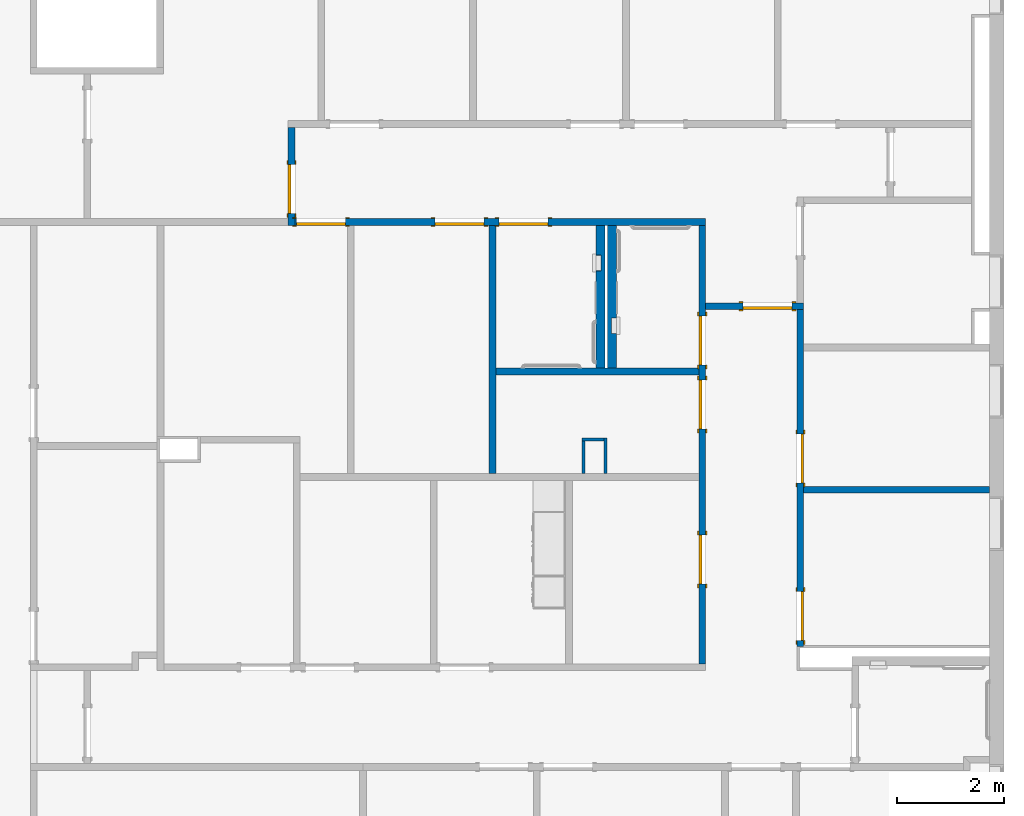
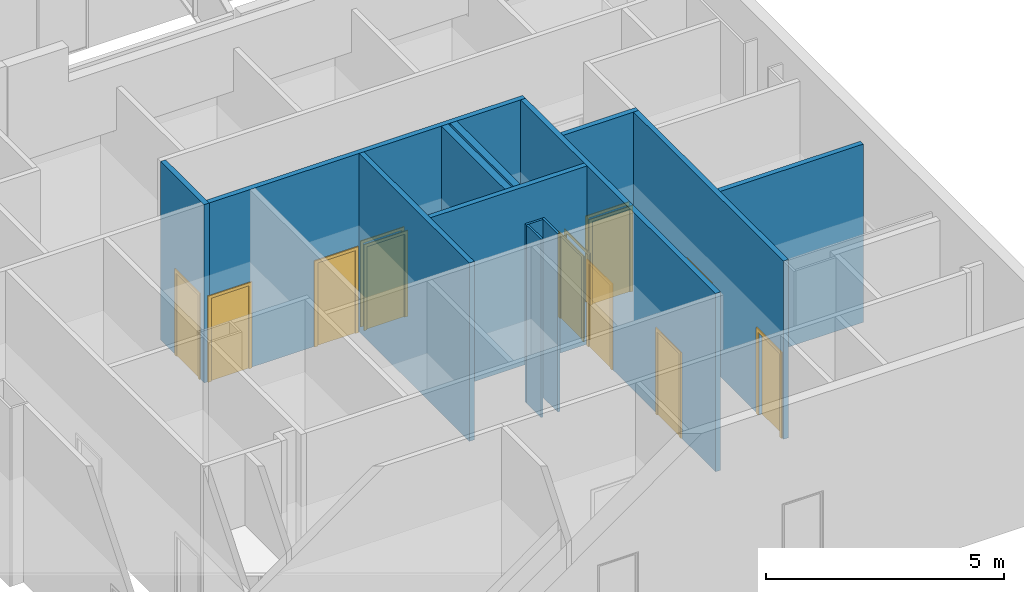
# One storey, part 16 of 47: 13 walls, 10 doors, 12 openings.
"""IFC2X3 building model written with IfcOpenShell, lengths in metres."""

from ifc_helpers import new_model, entity, si_unit, converted_unit, frame, frame_2d, origin, origin_2d_with_axis, place, context, project, spatial, polyline, rectangle, outline, extrude, source, transform, mapped, material, layer, layer_set, layer_usage, type_object, type_shapes, element, fill, save


model = new_model("IFC2X3")

# Units and contexts
model_context = context("Model", 3, precision=1e-09, world=origin())
plan_context = context("Plan", 3, precision=1e-09, world=origin())
ifc_project = project(units=[si_unit("LENGTHUNIT", "METRE"), si_unit("AREAUNIT", "SQUARE_METRE"), si_unit("VOLUMEUNIT", "CUBIC_METRE"), converted_unit("PLANEANGLEUNIT", "DEGREE", entity("IfcRatioMeasure", 0.01745329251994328), si_unit("PLANEANGLEUNIT", "RADIAN"), dimensions=[0, 0, 0, 0, 0, 0, 0]), si_unit("TIMEUNIT", "SECOND")], contexts=[model_context, plan_context])

# Site, building, storey
site_placement = place(None, origin())
site = spatial("IfcSite", under=ifc_project, at=site_placement, Name="Default", CompositionType="ELEMENT")
building_placement = place(site_placement, origin())
building = spatial("IfcBuilding", under=site, at=building_placement, CompositionType="ELEMENT")
storey_placement = place(building_placement, frame((0.0, 0.0, 4.570000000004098)))
storey = spatial("IfcBuildingStorey", under=building, at=storey_placement, Name="Second Floor", CompositionType="ELEMENT", Elevation=4.570000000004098)

# Wall, opening, door
ifc_material_1 = material(Name="Plasterboard")
ifc_layer_1 = layer(ifc_material_1, 0.016)
ifc_material_2 = material(Name="Metal - Stud Layer")
ifc_layer_2 = layer(ifc_material_2, 0.092)
ifc_layer_3 = layer(ifc_material_1, 0.016)
ifc_layer_set_1 = layer_set([ifc_layer_1, ifc_layer_2, ifc_layer_3], Name="Basic Wall:Interior - Partition (92mm Stud)")
ifc_layer_usage_1 = layer_usage(ifc_layer_set_1, "AXIS2", "NEGATIVE", 0.062)
wall_1_placement = place(storey_placement, frame((-12.94800000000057, 22.85043871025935, 0.0), z_axis=(0.0, 0.0, 1.0), x_axis=(0.0, 1.0, 0.0)))
wall_1 = element("IfcWallStandardCase", 1, at=wall_1_placement, inside=storey, material=ifc_layer_usage_1, Name="Basic Wall:Interior - Partition (92mm Stud)", ObjectType="Basic Wall:Interior - Partition (92mm Stud)", context=model_context, shape_type="SweptSolid", body=[
    extrude(rectangle(XDim=1.834000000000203, YDim=0.1240000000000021, at=frame_2d((0.9170000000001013, 0.0), x_axis=(-1.0, 0.0))), origin(), (0.0, 0.0, 1.0), 4.577999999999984),
])
opening_1_placement = place(wall_1_placement, frame((0.2240000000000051, -0.06199999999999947, 0.0)))
opening_1 = element("IfcOpeningElement", 2, at=opening_1_placement, cuts=wall_1, Name="M_Single-Flush:0915 x 2134mm:0915 x 2134mm:1", ObjectType="Opening", context=model_context, shape_type="SweptSolid", body=[
    extrude(rectangle(XDim=0.9149999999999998, YDim=2.134, at=frame_2d((1.067, 0.4575000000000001), x_axis=(0.0, -1.0))), frame((0.0, 0.0, 0.0), z_axis=(0.0, 1.0, 0.0), x_axis=(0.0, 0.0, 1.0)), (0.0, 0.0, 1.0), 0.124),
])
door_style_1 = type_object("IfcDoorStyle", Name="0915 x 2134mm", ConstructionType="NOTDEFINED", OperationType="SINGLE_SWING_LEFT", ParameterTakesPrecedence=False, Sizeable=False)
shared_shape_1 = source(origin(), model_context, "Body", "SweptSolid", [
    extrude(outline(polyline([(-0.5335, -1.123999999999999), (0.5334999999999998, -1.123999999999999), (0.5334999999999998, 1.086), (0.4574999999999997, 1.086), (0.4574999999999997, -1.048000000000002), (-0.4574999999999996, -1.048000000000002), (-0.4574999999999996, 1.086), (-0.5335, 1.086), (-0.5335, -1.123999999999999)])), frame((0.4575000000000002, 0.1489999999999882, 1.086), z_axis=(0.0, -1.0, 0.0), x_axis=(-1.0, 0.0, 0.0)), (0.0, 0.0, 1.0), 0.02499999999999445),
    extrude(outline(polyline([(-1.123999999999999, -0.5334999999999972), (1.085999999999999, -0.5334999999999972), (1.085999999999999, -0.4575000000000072), (-1.048, -0.4575000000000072), (-1.048, 0.4575000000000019), (1.085999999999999, 0.4575000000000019), (1.085999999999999, 0.5335000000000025), (-1.123999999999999, 0.5335000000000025), (-1.123999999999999, -0.5334999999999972)])), frame((0.4574999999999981, 0.0, 1.085999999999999), z_axis=(0.0, -1.0, 0.0), x_axis=(0.0, 0.0, -1.0)), (0.0, 0.0, 1.0), 0.02500000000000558),
    extrude(rectangle(XDim=0.9149999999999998, YDim=0.051, at=origin_2d_with_axis()), frame((0.4575000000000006, 0.09849999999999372, 0.0)), (0.0, 0.0, 1.0), 2.133999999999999),
])
type_shapes(door_style_1, [shared_shape_1])
door_1_placement = place(opening_1_placement, origin())
door_1 = element("IfcDoor", 3, at=door_1_placement, inside=storey, type_object=door_style_1, Name="M_Single-Flush:0915 x 2134mm:0915 x 2134mm", ObjectType="0915 x 2134mm", OverallHeight=2.134, OverallWidth=0.9149999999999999, context=model_context, shape_type="MappedRepresentation", body=[
    mapped(shared_shape_1, transform((0.0, 0.0, 0.0), scale=1.0)),
])
fill(opening_1, door_1)

# Wall, openings, doors
ifc_layer_usage_2 = layer_usage(ifc_layer_set_1, "AXIS2", "NEGATIVE", 0.062)
wall_2_placement = place(storey_placement, frame((-12.88600000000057, 22.91243871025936, 0.0)))
wall_2 = element("IfcWallStandardCase", 4, at=wall_2_placement, inside=storey, material=ifc_layer_usage_2, Name="Basic Wall:Interior - Partition (92mm Stud)", ObjectType="Basic Wall:Interior - Partition (92mm Stud)", context=model_context, shape_type="SweptSolid", body=[
    extrude(rectangle(XDim=7.68600000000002, YDim=0.1239999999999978, at=frame_2d((3.84300000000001, 0.0), x_axis=(-1.0, 0.0))), origin(), (0.0, 0.0, 1.0), 4.577999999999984),
])
opening_2_placement = place(wall_2_placement, frame((0.9505000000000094, 0.0619999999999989, 0.0)))
opening_2 = element("IfcOpeningElement", 5, at=opening_2_placement, cuts=wall_2, Name="M_Single-Flush:0915 x 2134mm:0915 x 2134mm:1", ObjectType="Opening", context=model_context, shape_type="SweptSolid", body=[
    extrude(rectangle(XDim=0.9149999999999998, YDim=2.134, at=frame_2d((1.067, 0.4575000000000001), x_axis=(0.0, -1.0))), frame((0.0, 0.0, 0.0), z_axis=(0.0, -1.0, 0.0), x_axis=(0.0, 0.0, 1.0)), (0.0, 0.0, 1.0), 0.124),
])
opening_3_placement = place(wall_2_placement, frame((3.536000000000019, 0.06199999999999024, 0.0)))
opening_3 = element("IfcOpeningElement", 6, at=opening_3_placement, cuts=wall_2, Name="M_Single-Flush:0915 x 2134mm:0915 x 2134mm:1", ObjectType="Opening", context=model_context, shape_type="SweptSolid", body=[
    extrude(rectangle(XDim=0.9149999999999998, YDim=2.134, at=frame_2d((1.067, 0.4575000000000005), x_axis=(0.0, -1.0))), frame((0.0, 0.0, 0.0), z_axis=(0.0, -1.0, 0.0), x_axis=(0.0, 0.0, 1.0)), (0.0, 0.0, 1.0), 0.124),
])
opening_4_placement = place(wall_2_placement, frame((4.735000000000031, 0.06199999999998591, 0.0)))
opening_4 = element("IfcOpeningElement", 7, at=opening_4_placement, cuts=wall_2, Name="M_Single-Flush:0915 x 2134mm:0915 x 2134mm:1", ObjectType="Opening", context=model_context, shape_type="SweptSolid", body=[
    extrude(rectangle(XDim=0.9149999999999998, YDim=2.134, at=frame_2d((1.067, 0.4575), x_axis=(0.0, 1.0))), frame((0.0, 0.0, 0.0), z_axis=(0.0, -1.0, 0.0), x_axis=(0.0, 0.0, 1.0)), (0.0, 0.0, 1.0), 0.124),
])
door_style_2 = type_object("IfcDoorStyle", Name="0915 x 2134mm", ConstructionType="NOTDEFINED", OperationType="SINGLE_SWING_RIGHT", ParameterTakesPrecedence=False, Sizeable=False)
shared_shape_2 = source(origin(), model_context, "Body", "SweptSolid", [
    extrude(outline(polyline([(-0.5335, -1.123999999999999), (0.5334999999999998, -1.123999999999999), (0.5334999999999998, 1.086), (0.4574999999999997, 1.086), (0.4574999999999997, -1.048000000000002), (-0.4574999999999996, -1.048000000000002), (-0.4574999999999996, 1.086), (-0.5335, 1.086), (-0.5335, -1.123999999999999)])), frame((0.4575000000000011, 0.1239999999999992, 1.086), z_axis=(0.0, 1.0, 0.0), x_axis=(1.0, 0.0, 0.0)), (0.0, 0.0, 1.0), 0.02499999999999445),
    extrude(outline(polyline([(-1.123999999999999, -0.5334999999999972), (1.085999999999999, -0.5334999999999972), (1.085999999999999, -0.4575000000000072), (-1.048, -0.4575000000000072), (-1.048, 0.4575000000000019), (1.085999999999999, 0.4575000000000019), (1.085999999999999, 0.5335000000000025), (-1.123999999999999, 0.5335000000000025), (-1.123999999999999, -0.5334999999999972)])), frame((0.4575000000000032, -0.02500000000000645, 1.085999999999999), z_axis=(0.0, 1.0, 0.0), x_axis=(0.0, 0.0, -1.0)), (0.0, 0.0, 1.0), 0.02500000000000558),
    extrude(rectangle(XDim=0.051, YDim=0.9149999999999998, at=origin_2d_with_axis()), frame((0.4575000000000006, 0.09849999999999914, 0.0), z_axis=(0.0, 0.0, 1.0), x_axis=(0.0, 1.0, 0.0)), (0.0, 0.0, 1.0), 2.133999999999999),
])
type_shapes(door_style_2, [shared_shape_2])
door_2_placement = place(opening_4_placement, frame((0.0, 0.0, 0.0), z_axis=(0.0, 0.0, 1.0), x_axis=(-1.0, 0.0, 0.0)))
door_2 = element("IfcDoor", 8, at=door_2_placement, inside=storey, type_object=door_style_2, Name="M_Single-Flush:0915 x 2134mm:0915 x 2134mm", ObjectType="0915 x 2134mm", OverallHeight=2.134, OverallWidth=0.9149999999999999, context=model_context, shape_type="MappedRepresentation", body=[
    mapped(shared_shape_2, transform((0.0, 0.0, 0.0), scale=1.0)),
])
fill(opening_4, door_2)
door_3_placement = place(opening_2_placement, frame((0.0, 0.0, 0.0), z_axis=(0.0, 0.0, 1.0), x_axis=(-1.0, 0.0, 0.0)))
door_3 = element("IfcDoor", 9, at=door_3_placement, inside=storey, type_object=door_style_1, Name="M_Single-Flush:0915 x 2134mm:0915 x 2134mm", ObjectType="0915 x 2134mm", OverallHeight=2.134, OverallWidth=0.9149999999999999, context=model_context, shape_type="MappedRepresentation", body=[
    mapped(shared_shape_1, transform((0.0, 0.0, 0.0), scale=1.0)),
])
fill(opening_2, door_3)
door_4_placement = place(opening_3_placement, frame((0.0, 0.0, 0.0), z_axis=(0.0, 0.0, 1.0), x_axis=(-1.0, 0.0, 0.0)))
door_4 = element("IfcDoor", 10, at=door_4_placement, inside=storey, type_object=door_style_1, Name="M_Single-Flush:0915 x 2134mm:0915 x 2134mm", ObjectType="0915 x 2134mm", OverallHeight=2.134, OverallWidth=0.9149999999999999, context=model_context, shape_type="MappedRepresentation", body=[
    mapped(shared_shape_1, transform((0.0, 0.0, 0.0), scale=1.0)),
])
fill(opening_3, door_4)

ifc_layer_usage_3 = layer_usage(ifc_layer_set_1, "AXIS2", "NEGATIVE", 0.062)
wall_3_placement = place(storey_placement, frame((-5.26200000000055, 22.85043871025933, 0.0), z_axis=(0.0, 0.0, 1.0), x_axis=(0.0, -1.0, 0.0)))
wall_3 = element("IfcWallStandardCase", 11, at=wall_3_placement, inside=storey, material=ifc_layer_usage_3, Name="Basic Wall:Interior - Partition (92mm Stud)", ObjectType="Basic Wall:Interior - Partition (92mm Stud)", context=model_context, shape_type="SweptSolid", body=[
    extrude(rectangle(XDim=8.202000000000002, YDim=0.124, at=frame_2d((4.101000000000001, 0.0), x_axis=(-1.0, 0.0))), origin(), (0.0, 0.0, 1.0), 4.577999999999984),
])
opening_5_placement = place(wall_3_placement, frame((2.612000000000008, 0.06199999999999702, 0.0)))
opening_5 = element("IfcOpeningElement", 12, at=opening_5_placement, cuts=wall_3, Name="M_Single-Flush:0915 x 2134mm:0915 x 2134mm:1", ObjectType="Opening", context=model_context, shape_type="SweptSolid", body=[
    extrude(rectangle(XDim=0.9149999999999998, YDim=2.134, at=frame_2d((1.067, 0.4574999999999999), x_axis=(0.0, -1.0))), frame((0.0, 0.0, 0.0), z_axis=(0.0, -1.0, 0.0), x_axis=(0.0, 0.0, 1.0)), (0.0, 0.0, 1.0), 0.124),
])
opening_6_placement = place(wall_3_placement, frame((3.811000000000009, 0.06199999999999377, 0.0)))
opening_6 = element("IfcOpeningElement", 13, at=opening_6_placement, cuts=wall_3, Name="M_Single-Flush:0915 x 2134mm:0915 x 2134mm:1", ObjectType="Opening", context=model_context, shape_type="SweptSolid", body=[
    extrude(rectangle(XDim=0.9149999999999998, YDim=2.134, at=frame_2d((1.067, 0.4575), x_axis=(0.0, 1.0))), frame((0.0, 0.0, 0.0), z_axis=(0.0, -1.0, 0.0), x_axis=(0.0, 0.0, 1.0)), (0.0, 0.0, 1.0), 0.124),
])
opening_7_placement = place(wall_3_placement, frame((6.705000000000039, 0.06199999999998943, 0.0)))
opening_7 = element("IfcOpeningElement", 14, at=opening_7_placement, cuts=wall_3, Name="M_Single-Flush:0915 x 2134mm:0915 x 2134mm:1", ObjectType="Opening", context=model_context, shape_type="SweptSolid", body=[
    extrude(rectangle(XDim=0.9149999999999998, YDim=2.134, at=frame_2d((1.067, 0.4575), x_axis=(0.0, 1.0))), frame((0.0, 0.0, 0.0), z_axis=(0.0, -1.0, 0.0), x_axis=(0.0, 0.0, 1.0)), (0.0, 0.0, 1.0), 0.124),
])
door_5_placement = place(opening_6_placement, frame((0.0, 0.0, 0.0), z_axis=(0.0, 0.0, 1.0), x_axis=(-1.0, 0.0, 0.0)))
door_5 = element("IfcDoor", 15, at=door_5_placement, inside=storey, type_object=door_style_2, Name="M_Single-Flush:0915 x 2134mm:0915 x 2134mm", ObjectType="0915 x 2134mm", OverallHeight=2.134, OverallWidth=0.9149999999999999, context=model_context, shape_type="MappedRepresentation", body=[
    mapped(shared_shape_2, transform((0.0, 0.0, 0.0), scale=1.0)),
])
fill(opening_6, door_5)
door_6_placement = place(opening_7_placement, frame((0.0, 0.0, 0.0), z_axis=(0.0, 0.0, 1.0), x_axis=(-1.0, 0.0, 0.0)))
door_6 = element("IfcDoor", 16, at=door_6_placement, inside=storey, type_object=door_style_2, Name="M_Single-Flush:0915 x 2134mm:0915 x 2134mm", ObjectType="0915 x 2134mm", OverallHeight=2.134, OverallWidth=0.9149999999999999, context=model_context, shape_type="MappedRepresentation", body=[
    mapped(shared_shape_2, transform((0.0, 0.0, 0.0), scale=1.0)),
])
fill(opening_7, door_6)
door_7_placement = place(opening_5_placement, frame((0.0, 0.0, 0.0), z_axis=(0.0, 0.0, 1.0), x_axis=(-1.0, 0.0, 0.0)))
door_7 = element("IfcDoor", 17, at=door_7_placement, inside=storey, type_object=door_style_1, Name="M_Single-Flush:0915 x 2134mm:0915 x 2134mm", ObjectType="0915 x 2134mm", OverallHeight=2.134, OverallWidth=0.9149999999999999, context=model_context, shape_type="MappedRepresentation", body=[
    mapped(shared_shape_1, transform((0.0, 0.0, 0.0), scale=1.0)),
])
fill(opening_5, door_7)

# Wall, opening, door
ifc_layer_usage_4 = layer_usage(ifc_layer_set_1, "AXIS2", "NEGATIVE", 0.062)
wall_4_placement = place(storey_placement, frame((-5.200000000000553, 21.33903871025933, 0.0)))
wall_4 = element("IfcWallStandardCase", 18, at=wall_4_placement, inside=storey, material=ifc_layer_usage_4, Name="Basic Wall:Interior - Partition (92mm Stud)", ObjectType="Basic Wall:Interior - Partition (92mm Stud)", context=model_context, shape_type="SweptSolid", body=[
    extrude(rectangle(XDim=1.833999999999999, YDim=0.1239999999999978, at=frame_2d((0.9169999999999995, 0.0), x_axis=(-1.0, 0.0))), origin(), (0.0, 0.0, 1.0), 4.577999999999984),
])
opening_8_placement = place(wall_4_placement, frame((1.609999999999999, 0.06199999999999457, 0.0)))
opening_8 = element("IfcOpeningElement", 19, at=opening_8_placement, cuts=wall_4, Name="M_Single-Flush:0915 x 2134mm:0915 x 2134mm:1", ObjectType="Opening", context=model_context, shape_type="SweptSolid", body=[
    extrude(rectangle(XDim=0.9149999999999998, YDim=2.134, at=frame_2d((1.067, 0.4575000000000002), x_axis=(0.0, -1.0))), frame((0.0, 0.0, 0.0), z_axis=(0.0, -1.0, 0.0), x_axis=(0.0, 0.0, 1.0)), (0.0, 0.0, 1.0), 0.124),
])
door_8_placement = place(opening_8_placement, frame((0.0, 0.0, 0.0), z_axis=(0.0, 0.0, 1.0), x_axis=(-1.0, 0.0, 0.0)))
door_8 = element("IfcDoor", 20, at=door_8_placement, inside=storey, type_object=door_style_1, Name="M_Single-Flush:0915 x 2134mm:0915 x 2134mm", ObjectType="0915 x 2134mm", OverallHeight=2.134, OverallWidth=0.9149999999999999, context=model_context, shape_type="MappedRepresentation", body=[
    mapped(shared_shape_1, transform((0.0, 0.0, 0.0), scale=1.0)),
])
fill(opening_8, door_8)

# Wall, openings, doors
ifc_layer_usage_5 = layer_usage(ifc_layer_set_1, "AXIS2", "NEGATIVE", 0.062)
wall_5_placement = place(storey_placement, frame((-3.428000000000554, 21.27703871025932, 0.0), z_axis=(0.0, 0.0, 1.0), x_axis=(0.0, -1.0, 0.0)))
wall_5 = element("IfcWallStandardCase", 21, at=wall_5_placement, inside=storey, material=ifc_layer_usage_5, Name="Basic Wall:Interior - Partition (92mm Stud)", ObjectType="Basic Wall:Interior - Partition (92mm Stud)", context=model_context, shape_type="SweptSolid", body=[
    extrude(rectangle(XDim=6.309599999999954, YDim=0.124, at=frame_2d((3.154799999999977, 0.0), x_axis=(-1.0, 0.0))), origin(), (0.0, 0.0, 1.0), 4.577999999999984),
])
opening_9_placement = place(wall_5_placement, frame((2.334099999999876, -0.06200000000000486, 0.0)))
opening_9 = element("IfcOpeningElement", 22, at=opening_9_placement, cuts=wall_5, Name="M_Single-Flush:0915 x 2134mm:0915 x 2134mm:1", ObjectType="Opening", context=model_context, shape_type="SweptSolid", body=[
    extrude(rectangle(XDim=0.9149999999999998, YDim=2.134, at=frame_2d((1.067, 0.4575), x_axis=(0.0, 1.0))), frame((0.0, 0.0, 0.0), z_axis=(0.0, 1.0, 0.0), x_axis=(0.0, 0.0, 1.0)), (0.0, 0.0, 1.0), 0.124),
])
opening_10_placement = place(wall_5_placement, frame((5.273599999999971, -0.06200000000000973, 0.0)))
opening_10 = element("IfcOpeningElement", 23, at=opening_10_placement, cuts=wall_5, Name="M_Single-Flush:0915 x 2134mm:0915 x 2134mm:1", ObjectType="Opening", context=model_context, shape_type="SweptSolid", body=[
    extrude(rectangle(XDim=0.9149999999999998, YDim=2.134, at=frame_2d((1.067, 0.4575), x_axis=(0.0, 1.0))), frame((0.0, 0.0, 0.0), z_axis=(0.0, 1.0, 0.0), x_axis=(0.0, 0.0, 1.0)), (0.0, 0.0, 1.0), 0.124),
])
door_9_placement = place(opening_9_placement, origin())
door_9 = element("IfcDoor", 24, at=door_9_placement, inside=storey, type_object=door_style_2, Name="M_Single-Flush:0915 x 2134mm:0915 x 2134mm", ObjectType="0915 x 2134mm", OverallHeight=2.134, OverallWidth=0.9149999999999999, context=model_context, shape_type="MappedRepresentation", body=[
    mapped(shared_shape_2, transform((0.0, 0.0, 0.0), scale=1.0)),
])
fill(opening_9, door_9)
door_10_placement = place(opening_10_placement, origin())
door_10 = element("IfcDoor", 25, at=door_10_placement, inside=storey, type_object=door_style_2, Name="M_Single-Flush:0915 x 2134mm:0915 x 2134mm", ObjectType="0915 x 2134mm", OverallHeight=2.134, OverallWidth=0.9149999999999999, context=model_context, shape_type="MappedRepresentation", body=[
    mapped(shared_shape_2, transform((0.0, 0.0, 0.0), scale=1.0)),
])
fill(opening_10, door_10)

# Walls
ifc_layer_usage_6 = layer_usage(ifc_layer_set_1, "AXIS2", "NEGATIVE", 0.062)
wall_6_placement = place(storey_placement, frame((0.1129999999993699, 17.90593871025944, 0.0), z_axis=(0.0, 0.0, 1.0), x_axis=(-1.0, 0.0, 0.0)))
element("IfcWallStandardCase", 26, at=wall_6_placement, inside=storey, material=ifc_layer_usage_6, Name="Basic Wall:Interior - Partition (92mm Stud)", ObjectType="Basic Wall:Interior - Partition (92mm Stud)", context=model_context, shape_type="SweptSolid", body=[
    extrude(rectangle(XDim=3.478999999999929, YDim=0.1240000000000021, at=frame_2d((1.739499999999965, 0.0), x_axis=(-1.0, 0.0))), origin(), (0.0, 0.0, 1.0), 4.577999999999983),
])
ifc_layer_usage_7 = layer_usage(ifc_layer_set_1, "AXIS2", "NEGATIVE", 0.062)
wall_7_placement = place(storey_placement, frame((-9.188000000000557, 18.2044387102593, 0.0), z_axis=(0.0, 0.0, 1.0), x_axis=(0.0, 1.0, 0.0)))
element("IfcWallStandardCase", 27, at=wall_7_placement, inside=storey, material=ifc_layer_usage_7, Name="Basic Wall:Interior - Partition (92mm Stud)", ObjectType="Basic Wall:Interior - Partition (92mm Stud)", context=model_context, shape_type="SweptSolid", body=[
    extrude(rectangle(XDim=4.64600000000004, YDim=0.124, at=frame_2d((2.32300000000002, 0.0), x_axis=(-1.0, 0.0))), origin(), (0.0, 0.0, 1.0), 4.577999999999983),
])
ifc_layer_usage_8 = layer_usage(ifc_layer_set_1, "AXIS2", "NEGATIVE", 0.062)
wall_8_placement = place(storey_placement, frame((-5.324000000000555, 20.11643871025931, 0.0), z_axis=(0.0, 0.0, 1.0), x_axis=(-1.0, 0.0, 0.0)))
element("IfcWallStandardCase", 28, at=wall_8_placement, inside=storey, material=ifc_layer_usage_8, Name="Basic Wall:Interior - Partition (92mm Stud)", ObjectType="Basic Wall:Interior - Partition (92mm Stud)", context=model_context, shape_type="SweptSolid", body=[
    extrude(rectangle(XDim=3.801999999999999, YDim=0.1239999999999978, at=frame_2d((1.900999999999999, 0.0), x_axis=(-1.0, 0.0))), origin(), (0.0, 0.0, 1.0), 4.577999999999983),
])

# Wall, opening
ifc_layer_4 = layer(ifc_material_2, 0.152)
ifc_layer_5 = layer(ifc_material_1, 0.016)
ifc_layer_set_2 = layer_set([ifc_layer_4, ifc_layer_5], Name="Basic Wall:Interior - Furring (152 mm Stud)")
ifc_layer_usage_9 = layer_usage(ifc_layer_set_2, "AXIS2", "POSITIVE", -0.08399999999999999)
wall_9_placement = place(storey_placement, frame((-6.954000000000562, 22.85043871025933, 0.0), z_axis=(0.0, 0.0, 1.0), x_axis=(0.0, -1.0, 0.0)))
wall_9 = element("IfcWallStandardCase", 29, at=wall_9_placement, inside=storey, material=ifc_layer_usage_9, Name="Basic Wall:Interior - Furring (152 mm Stud)", ObjectType="Basic Wall:Interior - Furring (152 mm Stud)", context=model_context, shape_type="SweptSolid", body=[
    extrude(rectangle(XDim=2.672000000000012, YDim=0.1680000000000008, at=frame_2d((1.336000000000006, 0.0), x_axis=(-1.0, 0.0))), origin(), (0.0, 0.0, 1.0), 4.577999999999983),
])
opening_11_placement = place(wall_9_placement, origin())
element("IfcOpeningElement", 30, at=opening_11_placement, cuts=wall_9, ObjectType="Opening", context=model_context, shape_type="SweptSolid", body=[
    extrude(rectangle(XDim=1.362075, YDim=0.2984500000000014, at=frame_2d((0.0, 0.0), x_axis=(0.0, 1.0))), frame((1.878499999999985, -0.004900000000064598, 1.041399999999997), z_axis=(0.0, 1.0, 0.0), x_axis=(1.0, 0.0, 0.0)), (0.0, 0.0, 1.0), 0.1524000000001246),
])

ifc_layer_usage_10 = layer_usage(ifc_layer_set_2, "AXIS2", "POSITIVE", -0.08399999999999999)
wall_10_placement = place(storey_placement, frame((-7.166000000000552, 20.17843871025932, 0.0), z_axis=(0.0, 0.0, 1.0), x_axis=(0.0, 1.0, 0.0)))
wall_10 = element("IfcWallStandardCase", 31, at=wall_10_placement, inside=storey, material=ifc_layer_usage_10, Name="Basic Wall:Interior - Furring (152 mm Stud)", ObjectType="Basic Wall:Interior - Furring (152 mm Stud)", context=model_context, shape_type="SweptSolid", body=[
    extrude(rectangle(XDim=2.672000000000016, YDim=0.1680000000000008, at=frame_2d((1.336000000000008, 0.0), x_axis=(-1.0, 0.0))), origin(), (0.0, 0.0, 1.0), 4.577999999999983),
])
opening_12_placement = place(wall_10_placement, origin())
element("IfcOpeningElement", 32, at=opening_12_placement, cuts=wall_10, ObjectType="Opening", context=model_context, shape_type="SweptSolid", body=[
    extrude(rectangle(XDim=1.362075, YDim=0.2984500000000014, at=frame_2d((0.0, 0.0), x_axis=(0.0, 1.0))), frame((1.967699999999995, -0.004900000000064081, 1.041399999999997), z_axis=(0.0, 1.0, 0.0), x_axis=(1.0, 0.0, 0.0)), (0.0, 0.0, 1.0), 0.1524000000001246),
])

# Walls
ifc_layer_6 = layer(ifc_material_2, 0.038)
ifc_layer_7 = layer(ifc_material_1, 0.016)
ifc_layer_set_3 = layer_set([ifc_layer_6, ifc_layer_7], Name="Basic Wall:Interior - Furring (38 mm Stud)")
ifc_layer_usage_11 = layer_usage(ifc_layer_set_3, "AXIS2", "NEGATIVE", 0.027)
wall_11_placement = place(storey_placement, frame((-7.077000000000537, 18.2044387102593, 0.0), z_axis=(0.0, 0.0, 1.0), x_axis=(0.0, 1.0, 0.0)))
element("IfcWallStandardCase", 33, at=wall_11_placement, inside=storey, material=ifc_layer_usage_11, Name="Basic Wall:Interior - Furring (38 mm Stud)", ObjectType="Basic Wall:Interior - Furring (38 mm Stud)", context=model_context, shape_type="SweptSolid", body=[
    extrude(rectangle(XDim=0.6700000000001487, YDim=0.05400000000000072, at=frame_2d((0.3350000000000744, 0.0), x_axis=(-1.0, 0.0))), origin(), (0.0, 0.0, 1.0), 4.577999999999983),
])
ifc_layer_usage_12 = layer_usage(ifc_layer_set_3, "AXIS2", "NEGATIVE", 0.027)
wall_12_placement = place(storey_placement, frame((-7.104000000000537, 18.84743871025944, 0.0), z_axis=(0.0, 0.0, 1.0), x_axis=(-1.0, 0.0, 0.0)))
element("IfcWallStandardCase", 34, at=wall_12_placement, inside=storey, material=ifc_layer_usage_12, Name="Basic Wall:Interior - Furring (38 mm Stud)", ObjectType="Basic Wall:Interior - Furring (38 mm Stud)", context=model_context, shape_type="SweptSolid", body=[
    extrude(rectangle(XDim=0.406000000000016, YDim=0.05400000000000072, at=frame_2d((0.203000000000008, 0.0), x_axis=(-1.0, 0.0))), origin(), (0.0, 0.0, 1.0), 4.577999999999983),
])
ifc_layer_usage_13 = layer_usage(ifc_layer_set_3, "AXIS2", "NEGATIVE", 0.027)
wall_13_placement = place(storey_placement, frame((-7.483000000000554, 18.82043871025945, 0.0), z_axis=(0.0, 0.0, 1.0), x_axis=(0.0, -1.0, 0.0)))
element("IfcWallStandardCase", 35, at=wall_13_placement, inside=storey, material=ifc_layer_usage_13, Name="Basic Wall:Interior - Furring (38 mm Stud)", ObjectType="Basic Wall:Interior - Furring (38 mm Stud)", context=model_context, shape_type="SweptSolid", body=[
    extrude(rectangle(XDim=0.6160000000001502, YDim=0.05400000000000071, at=frame_2d((0.3080000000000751, 0.0), x_axis=(-1.0, 0.0))), origin(), (0.0, 0.0, 1.0), 4.577999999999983),
])

save(model, "model.ifc")
